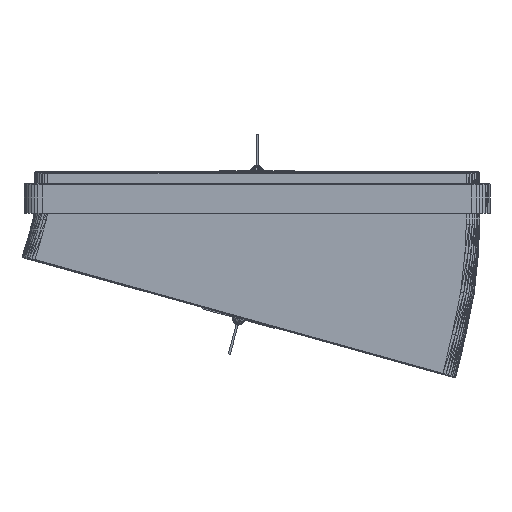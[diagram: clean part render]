
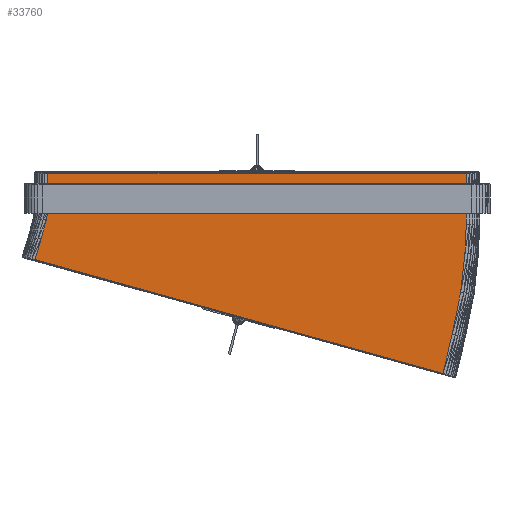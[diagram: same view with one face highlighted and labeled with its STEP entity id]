
A CAD part, front view. The second image highlights one B-rep face of the part: STEP entity #33760.
In plain terms, the highlighted planar face has unit normal (0, -1, 0).
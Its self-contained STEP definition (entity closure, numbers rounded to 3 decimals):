
#746 = VERTEX_POINT('',#747);
#747 = CARTESIAN_POINT('',(214.491,4.923,98.776
    ));
#2860 = EDGE_CURVE('',#2861,#746,#2863,.T.);
#2861 = VERTEX_POINT('',#2862);
#2862 = CARTESIAN_POINT('',(214.491,4.923,
    80.276));
#2863 = LINE('',#2864,#2865);
#2864 = CARTESIAN_POINT('',(214.491,4.923,
    80.276));
#2865 = VECTOR('',#2866,1.);
#2866 = DIRECTION('',(0.,0.,1.));
#6313 = VERTEX_POINT('',#6314);
#6314 = CARTESIAN_POINT('',(12.531,4.923,
    80.276));
#6320 = EDGE_CURVE('',#6313,#6321,#6323,.T.);
#6321 = VERTEX_POINT('',#6322);
#6322 = CARTESIAN_POINT('',(12.531,4.923,
    98.776));
#6323 = LINE('',#6324,#6325);
#6324 = CARTESIAN_POINT('',(12.531,4.923,
    80.276));
#6325 = VECTOR('',#6326,1.);
#6326 = DIRECTION('',(0.,0.,1.));
#7773 = VERTEX_POINT('',#7774);
#7774 = CARTESIAN_POINT('',(11.785,4.923,
    76.396));
#7780 = EDGE_CURVE('',#6313,#7773,#7781,.T.);
#7781 = LINE('',#7782,#7783);
#7782 = CARTESIAN_POINT('',(12.531,4.923,
    80.276));
#7783 = VECTOR('',#7784,1.);
#7784 = DIRECTION('',(-0.189,0.,-0.982));
#7865 = VERTEX_POINT('',#7866);
#7866 = CARTESIAN_POINT('',(9.313,4.923,
    67.292));
#7872 = EDGE_CURVE('',#7773,#7865,#7873,.T.);
#7873 = LINE('',#7874,#7875);
#7874 = CARTESIAN_POINT('',(11.785,4.923,
    76.396));
#7875 = VECTOR('',#7876,1.);
#7876 = DIRECTION('',(-0.262,0.,-0.965));
#8003 = VERTEX_POINT('',#8004);
#8004 = CARTESIAN_POINT('',(6.326,4.923,
    57.019));
#8010 = EDGE_CURVE('',#7865,#8003,#8011,.T.);
#8011 = LINE('',#8012,#8013);
#8012 = CARTESIAN_POINT('',(9.313,4.923,
    67.292));
#8013 = VECTOR('',#8014,1.);
#8014 = DIRECTION('',(-0.279,0.,-0.96));
#8440 = VERTEX_POINT('',#8441);
#8441 = CARTESIAN_POINT('',(214.557,4.923,
    74.078));
#8449 = EDGE_CURVE('',#8450,#8440,#8452,.T.);
#8450 = VERTEX_POINT('',#8451);
#8451 = CARTESIAN_POINT('',(213.904,4.923,
    60.156));
#8452 = LINE('',#8453,#8454);
#8453 = CARTESIAN_POINT('',(213.904,4.923,
    60.156));
#8454 = VECTOR('',#8455,1.);
#8455 = DIRECTION('',(0.047,0.,0.999));
#8815 = EDGE_CURVE('',#8816,#8450,#8818,.T.);
#8816 = VERTEX_POINT('',#8817);
#8817 = CARTESIAN_POINT('',(211.876,4.923,
    41.457));
#8818 = LINE('',#8819,#8820);
#8819 = CARTESIAN_POINT('',(211.876,4.923,
    41.457));
#8820 = VECTOR('',#8821,1.);
#8821 = DIRECTION('',(0.108,0.,0.994));
#9134 = EDGE_CURVE('',#9135,#8816,#9137,.T.);
#9135 = VERTEX_POINT('',#9136);
#9136 = CARTESIAN_POINT('',(207.711,4.923,
    20.87));
#9137 = LINE('',#9138,#9139);
#9138 = CARTESIAN_POINT('',(207.711,4.923,
    20.87));
#9139 = VECTOR('',#9140,1.);
#9140 = DIRECTION('',(0.198,0.,0.98));
#9414 = EDGE_CURVE('',#9415,#9135,#9417,.T.);
#9415 = VERTEX_POINT('',#9416);
#9416 = CARTESIAN_POINT('',(203.284,4.923,
    2.148));
#9417 = LINE('',#9418,#9419);
#9418 = CARTESIAN_POINT('',(203.284,4.923,
    2.148));
#9419 = VECTOR('',#9420,1.);
#9420 = DIRECTION('',(0.23,0.,0.973));
#11037 = EDGE_CURVE('',#8003,#9415,#11038,.T.);
#11038 = LINE('',#11039,#11040);
#11039 = CARTESIAN_POINT('',(6.326,4.923,
    57.019));
#11040 = VECTOR('',#11041,1.);
#11041 = DIRECTION('',(0.963,0.,-0.268));
#33050 = EDGE_CURVE('',#6321,#746,#33051,.T.);
#33051 = LINE('',#33052,#33053);
#33052 = CARTESIAN_POINT('',(12.531,4.923,
    98.776));
#33053 = VECTOR('',#33054,1.);
#33054 = DIRECTION('',(1.,0.,0.));
#33760 = ADVANCED_FACE('',(#33761),#33780,.T.);
#33761 = FACE_BOUND('',#33762,.T.);
#33762 = EDGE_LOOP('',(#33763,#33764,#33765,#33766,#33767,#33768,#33769,
    #33770,#33771,#33777,#33778,#33779));
#33763 = ORIENTED_EDGE('',*,*,#7780,.T.);
#33764 = ORIENTED_EDGE('',*,*,#7872,.T.);
#33765 = ORIENTED_EDGE('',*,*,#8010,.T.);
#33766 = ORIENTED_EDGE('',*,*,#11037,.T.);
#33767 = ORIENTED_EDGE('',*,*,#9414,.T.);
#33768 = ORIENTED_EDGE('',*,*,#9134,.T.);
#33769 = ORIENTED_EDGE('',*,*,#8815,.T.);
#33770 = ORIENTED_EDGE('',*,*,#8449,.T.);
#33771 = ORIENTED_EDGE('',*,*,#33772,.T.);
#33772 = EDGE_CURVE('',#8440,#2861,#33773,.T.);
#33773 = LINE('',#33774,#33775);
#33774 = CARTESIAN_POINT('',(214.557,4.923,
    74.078));
#33775 = VECTOR('',#33776,1.);
#33776 = DIRECTION('',(-0.011,0.,1.));
#33777 = ORIENTED_EDGE('',*,*,#2860,.T.);
#33778 = ORIENTED_EDGE('',*,*,#33050,.F.);
#33779 = ORIENTED_EDGE('',*,*,#6320,.F.);
#33780 = PLANE('',#33781);
#33781 = AXIS2_PLACEMENT_3D('',#33782,#33783,#33784);
#33782 = CARTESIAN_POINT('',(119.746,4.923,
    62.572));
#33783 = DIRECTION('',(-0.,-1.,-0.));
#33784 = DIRECTION('',(0.,0.,-1.));
